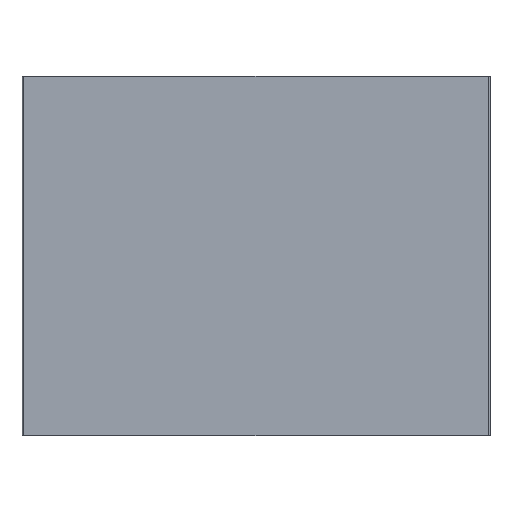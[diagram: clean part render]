
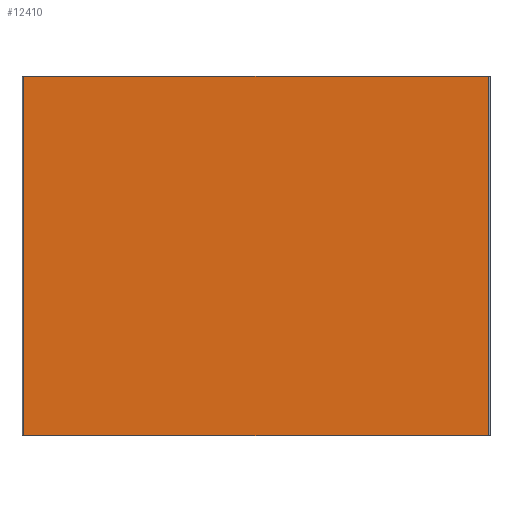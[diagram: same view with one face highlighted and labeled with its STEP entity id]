
A CAD part, left-side view. The second image highlights one B-rep face of the part: STEP entity #12410.
In plain terms, the highlighted planar face has unit normal (-1, 0, 0).
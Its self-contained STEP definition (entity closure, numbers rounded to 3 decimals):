
#5 = CARTESIAN_POINT ( 'NONE',  ( 59.684, 256.479, 100. ) ) ;
#1155 = CARTESIAN_POINT ( 'NONE',  ( 59.684, 256.479, 0. ) ) ;
#4757 = VECTOR ( 'NONE', #9343, 1000. ) ;
#5286 = VERTEX_POINT ( 'NONE', #34493 ) ;
#7393 = LINE ( 'NONE', #26920, #24492 ) ;
#8004 = LINE ( 'NONE', #32270, #34189 ) ;
#9343 = DIRECTION ( 'NONE',  ( 0., -1., 0. ) ) ;
#11819 = DIRECTION ( 'NONE',  ( 0., 0., -1. ) ) ;
#12110 = CARTESIAN_POINT ( 'NONE',  ( 59.684, 256.479, 100. ) ) ;
#12410 = ADVANCED_FACE ( 'NONE', ( #16495 ), #30528, .F. ) ;
#13508 = DIRECTION ( 'NONE',  ( 1., 0., 0. ) ) ;
#13899 = LINE ( 'NONE', #22929, #4757 ) ;
#14296 = CARTESIAN_POINT ( 'NONE',  ( 59.684, 127.479, 0. ) ) ;
#16495 = FACE_OUTER_BOUND ( 'NONE', #22979, .T. ) ;
#16621 = ORIENTED_EDGE ( 'NONE', *, *, #33875, .F. ) ;
#16903 = DIRECTION ( 'NONE',  ( 0., 0., -1. ) ) ;
#18247 = LINE ( 'NONE', #5, #42334 ) ;
#18297 = VERTEX_POINT ( 'NONE', #1155 ) ;
#22929 = CARTESIAN_POINT ( 'NONE',  ( 59.684, 256.479, 0. ) ) ;
#22979 = EDGE_LOOP ( 'NONE', ( #38424, #16621, #23403, #26298 ) ) ;
#23403 = ORIENTED_EDGE ( 'NONE', *, *, #29311, .F. ) ;
#24114 = EDGE_CURVE ( 'NONE', #29585, #18297, #18247, .T. ) ;
#24492 = VECTOR ( 'NONE', #33783, 1000. ) ;
#26298 = ORIENTED_EDGE ( 'NONE', *, *, #24114, .T. ) ;
#26920 = CARTESIAN_POINT ( 'NONE',  ( 59.684, 256.479, 100. ) ) ;
#28346 = AXIS2_PLACEMENT_3D ( 'NONE', #37249, #13508, #37399 ) ;
#28658 = EDGE_CURVE ( 'NONE', #18297, #34264, #13899, .T. ) ;
#29311 = EDGE_CURVE ( 'NONE', #29585, #5286, #7393, .T. ) ;
#29585 = VERTEX_POINT ( 'NONE', #12110 ) ;
#30528 = PLANE ( 'NONE',  #28346 ) ;
#32270 = CARTESIAN_POINT ( 'NONE',  ( 59.684, 127.479, 100. ) ) ;
#33783 = DIRECTION ( 'NONE',  ( 0., -1., 0. ) ) ;
#33875 = EDGE_CURVE ( 'NONE', #5286, #34264, #8004, .T. ) ;
#34189 = VECTOR ( 'NONE', #11819, 1000. ) ;
#34264 = VERTEX_POINT ( 'NONE', #14296 ) ;
#34493 = CARTESIAN_POINT ( 'NONE',  ( 59.684, 127.479, 100. ) ) ;
#37249 = CARTESIAN_POINT ( 'NONE',  ( 59.684, 256.479, 100. ) ) ;
#37399 = DIRECTION ( 'NONE',  ( 0., 0., -1. ) ) ;
#38424 = ORIENTED_EDGE ( 'NONE', *, *, #28658, .T. ) ;
#42334 = VECTOR ( 'NONE', #16903, 1000. ) ;
